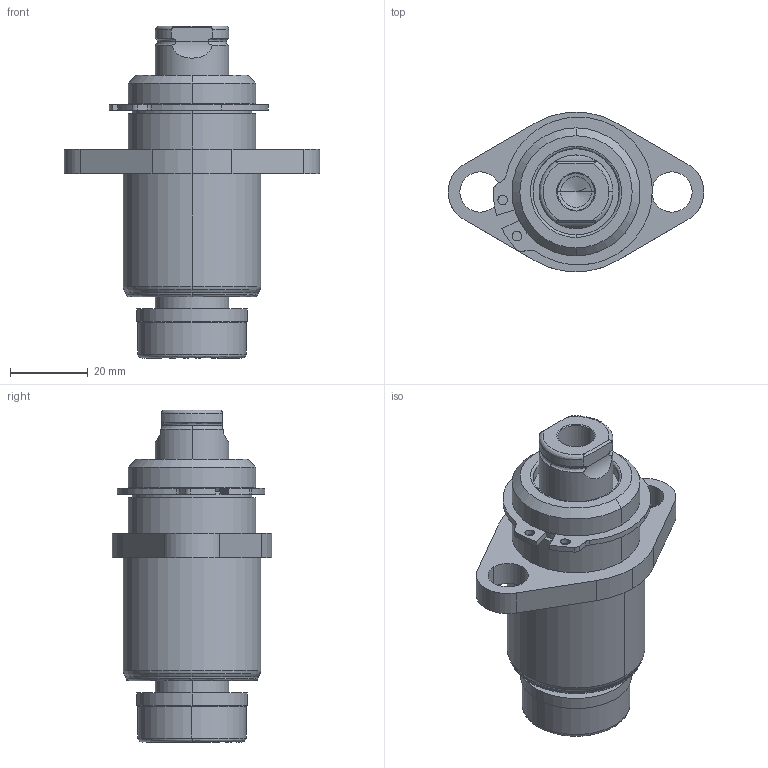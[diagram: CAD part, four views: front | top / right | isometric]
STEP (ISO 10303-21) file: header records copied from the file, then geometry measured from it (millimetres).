
FILE_DESCRIPTION (( 'STEP AP214' ), '1' );
FILE_NAME ('GK75-N2-1-TB-E-XXX.STEP', '2020-09-21T11:13:38', ( '' ), ( '' ), 'SwSTEP 2.0', 'SolidWorks 2017', '' );
FILE_SCHEMA (( 'AUTOMOTIVE_DESIGN' ));
Length unit declared in the file: inch
Products named in the file (7): GK75-E-XXX-GuidePin; GK0.75-N2-1-TB; GK75-N2-1-TB-E-XXX; RetainingRing; GK0.75-N2-1-TB-Base; GK75-DampeningWasher
Assembly tree (6 placements, depth 3):
  GK75-N2-1-TB-E-XXX
    GK0.75-N2-1-TB
      GK0.75-N2-1-TB-Base
      RetainingRing
    GK75-E-XXX-GuidePin
      GK75-DampeningWasher
      GK75-E-XXX-GuidePin
Bounding box: 66.04 x 41.27 x 85.67 mm (x, y, z)
Volume: 68104.5 mm3; surface area: 22687.7 mm2
Topology: 4 solids, 4 shells, 116 faces, 280 edges, 177 vertices
Faces by surface type: cylinder 57, plane 26, bspline 21, cone 12
Entity records: 4285 total; most frequent: CARTESIAN_POINT 1198, DIRECTION 601, ORIENTED_EDGE 556, EDGE_CURVE 278, AXIS2_PLACEMENT_3D 250, VERTEX_POINT 177, CIRCLE 144, EDGE_LOOP 135
